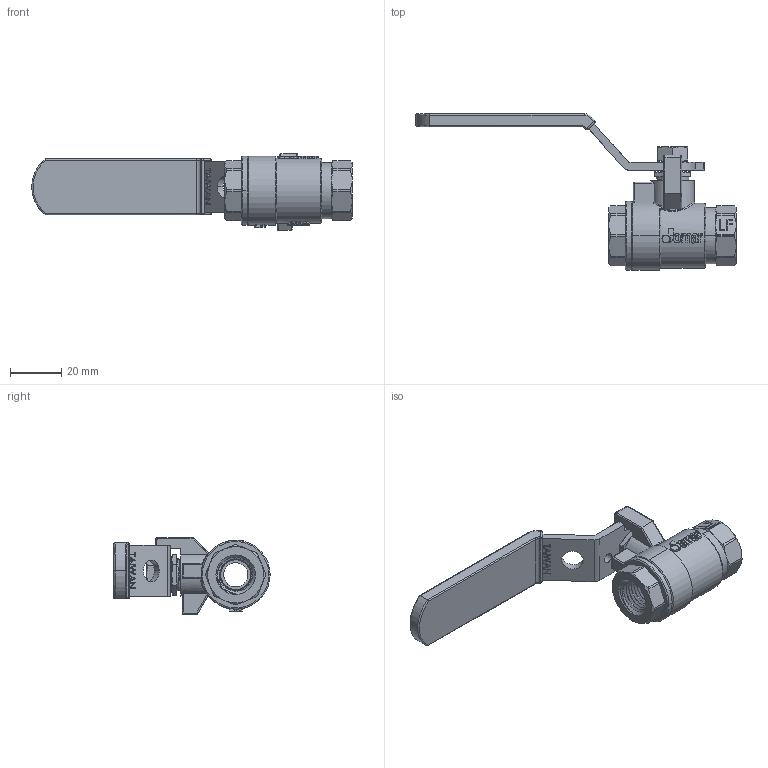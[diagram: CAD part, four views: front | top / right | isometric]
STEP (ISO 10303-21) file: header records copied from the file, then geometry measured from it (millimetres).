
FILE_DESCRIPTION (( 'STEP AP203' ), '1' );
FILE_NAME ('ABL701-無掛鎖-無鉛-0.25''''JOMAR球閥體組合-2025.STEP', '2025-06-25T06:26:21', ( '' ), ( '' ), 'SwSTEP 2.0', 'SolidWorks 2018', '' );
FILE_SCHEMA (( 'CONFIG_CONTROL_DESIGN' ));
Length unit declared in the file: millimetre
Products named in the file (13): CBL211; DN15-CBL703-HANDLE & SLEEVE 組合(白色T膠套); EBL203B; DN15-CBL211白色膠套-T-200CSSG; GBL211; BBL701-0.25''''JOMAR球閥體-無鉛-端面無插溝; EBL203A; EBL201; RBL261-無鑽孔; BBL701A-0.25''''JOMAR球閥八角頭-無鉛-端面無插溝; ABL701-無掛鎖-無鉛-0.25''''JOMAR球閥體組合-2025; TBL261A; NBL262
Assembly tree (13 placements, depth 3):
  ABL701-無掛鎖-無鉛-0.25''''JOMAR球閥體組合-2025
    BBL701-0.25''''JOMAR球閥體-無鉛-端面無插溝
    EBL203A
    EBL203B
    GBL211
    RBL261-無鑽孔
    BBL701A-0.25''''JOMAR球閥八角頭-無鉛-端面無插溝
    NBL262
    EBL201  x2
    TBL261A
    DN15-CBL703-HANDLE & SLEEVE 組合(白色T膠套)
      CBL211
      DN15-CBL211白色膠套-T-200CSSG
Bounding box: 125.5 x 61.21 x 30 mm (x, y, z)
Volume: 20000.9 mm3; surface area: 30079 mm2
Topology: 11 solids, 13 shells, 2247 faces, 6213 edges, 4167 vertices
Faces by surface type: plane 1188, bspline 644, cylinder 257, cone 124, torus 22, sphere 12
Entity records: 121419 total; most frequent: CARTESIAN_POINT 68251, ORIENTED_EDGE 12342, DIRECTION 7941, EDGE_CURVE 6173, VERTEX_POINT 4147, VECTOR 3697, LINE 3697, EDGE_LOOP 2445
